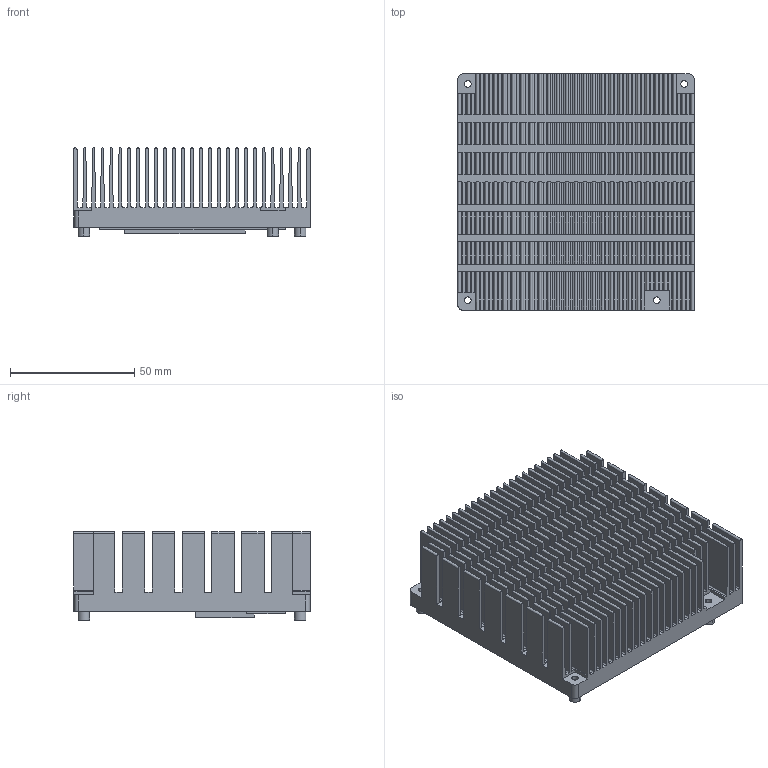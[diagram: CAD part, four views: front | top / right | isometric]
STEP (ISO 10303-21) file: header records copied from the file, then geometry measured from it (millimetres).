
FILE_DESCRIPTION((''),'2;1');
FILE_NAME('E1961213150004R_ASM','2018-09-17T11:42:32',('isaac_lin'),(''),'CREO PARAMETRIC BY PTC INC, 2017110','CREO PARAMETRIC BY PTC INC, 2017110','');
FILE_SCHEMA(('CONFIG_CONTROL_DESIGN'));
Length unit declared in the file: millimetre
Products named in the file (3): E1961213150004R; CL_D20X6H; E1961213150004R_ASM
Assembly tree (2 placements, depth 2):
  E1961213150004R_ASM
    E1961213150004R
    CL_D20X6H
Bounding box: 95 x 95 x 35.5 mm (x, y, z)
Volume: 111758.3 mm3; surface area: 129468.9 mm2
Topology: 2 solids, 2 shells, 1182 faces, 3535 edges, 2376 vertices
Faces by surface type: plane 606, cylinder 576
Entity records: 40408 total; most frequent: CARTESIAN_POINT 7496, ORIENTED_EDGE 7034, DIRECTION 6948, EDGE_CURVE 3517, VECTOR 2380, LINE 2380, VERTEX_POINT 2344, AXIS2_PLACEMENT_3D 2284
